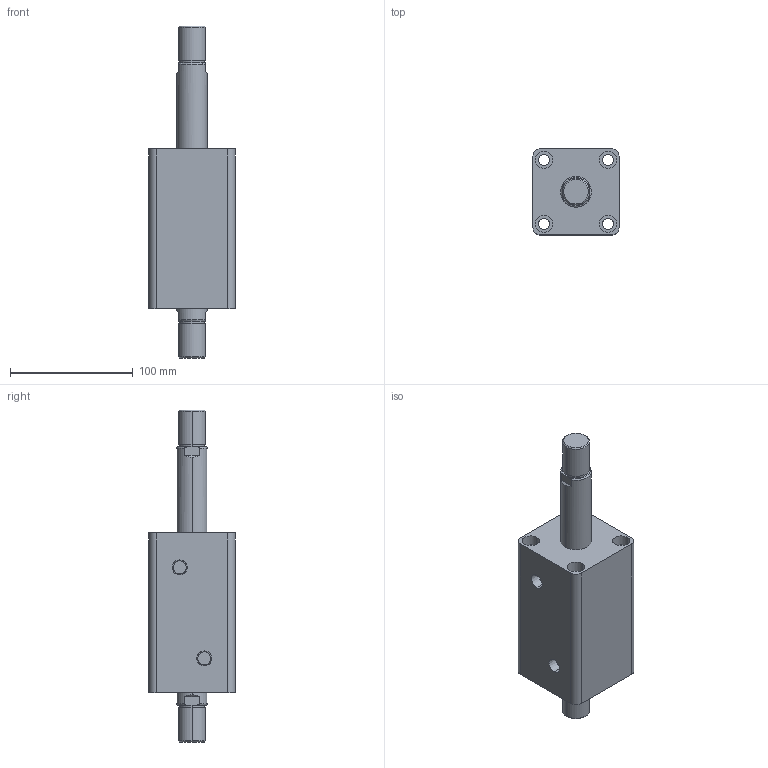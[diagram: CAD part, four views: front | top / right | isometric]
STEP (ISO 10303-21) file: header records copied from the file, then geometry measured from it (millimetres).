
FILE_DESCRIPTION (( 'STEP AP203' ), '1' );
FILE_NAME ('HTB-SW40-60W.STEP', '2019-10-07T09:09:47', ( '微软用户' ), ( '微软中国' ), 'SwSTEP 2.0', 'SolidWorks 2012', '' );
FILE_SCHEMA (( 'CONFIG_CONTROL_DESIGN' ));
Length unit declared in the file: millimetre
Products named in the file (3): HTB-SW40-60W; HTB-SW40-60W活塞杆; HTB-SW40-60掛极
Assembly tree (2 placements, depth 2):
  HTB-SW40-60W
    HTB-SW40-60掛极
    HTB-SW40-60W活塞杆
Bounding box: 70 x 70 x 270 mm (x, y, z)
Volume: 606772 mm3; surface area: 99093.7 mm2
Topology: 2 solids, 2 shells, 108 faces, 240 edges, 156 vertices
Faces by surface type: cylinder 52, plane 36, torus 12, cone 8
Entity records: 3449 total; most frequent: CARTESIAN_POINT 629, DIRECTION 586, ORIENTED_EDGE 480, AXIS2_PLACEMENT_3D 249, EDGE_CURVE 240, VERTEX_POINT 156, EDGE_LOOP 138, CIRCLE 136
